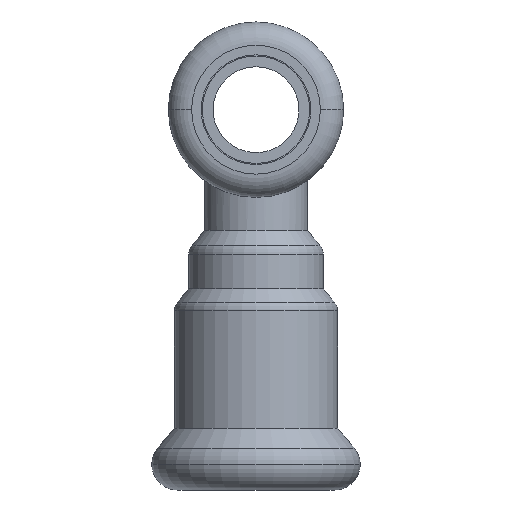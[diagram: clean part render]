
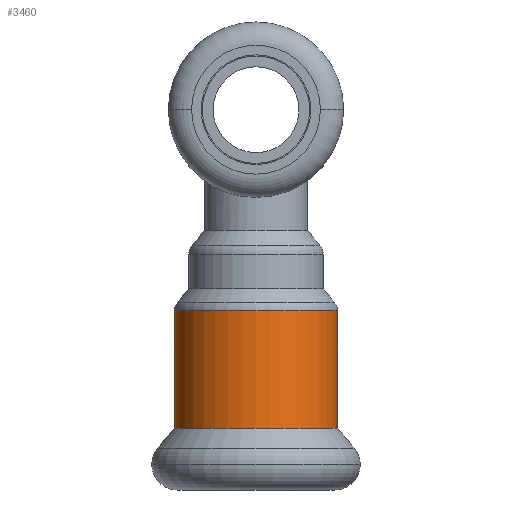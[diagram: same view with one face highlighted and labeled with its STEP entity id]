
A CAD part, front view. The second image highlights one B-rep face of the part: STEP entity #3460.
In plain terms, the highlighted cylindrical face has radius 9.125 mm (diameter 18.25 mm), a partial arc.
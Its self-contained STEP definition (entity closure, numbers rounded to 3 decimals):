
#2510=CARTESIAN_POINT('',(-105.318,41.391,0.));
#2520=VERTEX_POINT('',#2510);
#2690=CARTESIAN_POINT('',(-87.068,41.391,0.));
#2700=VERTEX_POINT('',#2690);
#2730=CARTESIAN_POINT('',(-96.193,41.391,0.));
#2740=DIRECTION('',(0.,-1.,0.));
#2750=DIRECTION('',(-1.,0.,0.));
#2760=AXIS2_PLACEMENT_3D('',#2730,#2740,#2750);
#2770=CIRCLE('',#2760,9.125);
#2780=EDGE_CURVE('',#2520,#2700,#2770,.T.);
#2920=CARTESIAN_POINT('',(-87.068,54.512,0.));
#2930=VERTEX_POINT('',#2920);
#3110=CARTESIAN_POINT('',(-105.318,54.512,
0.));
#3120=VERTEX_POINT('',#3110);
#3150=CARTESIAN_POINT('',(-96.193,54.512,0.));
#3160=DIRECTION('',(0.,1.,0.));
#3170=DIRECTION('',(-1.,0.,0.));
#3180=AXIS2_PLACEMENT_3D('',#3150,#3160,#3170);
#3190=CIRCLE('',#3180,9.125);
#3200=EDGE_CURVE('',#2930,#3120,#3190,.T.);
#3250=CARTESIAN_POINT('',(-96.193,47.688,0.));
#3260=DIRECTION('',(0.,-1.,0.));
#3270=DIRECTION('',(-1.,0.,0.));
#3280=AXIS2_PLACEMENT_3D('',#3250,#3260,#3270);
#3290=CYLINDRICAL_SURFACE('',#3280,9.125);
#3300=CARTESIAN_POINT('',(-87.068,47.688,
0.));
#3310=DIRECTION('',(0.,-1.,0.));
#3320=VECTOR('',#3310,1.);
#3330=LINE('',#3300,#3320);
#3340=EDGE_CURVE('',#2930,#2700,#3330,.T.);
#3350=ORIENTED_EDGE('',*,*,#3340,.T.);
#3360=ORIENTED_EDGE('',*,*,#3200,.F.);
#3370=CARTESIAN_POINT('',(-105.318,47.688,0.));
#3380=DIRECTION('',(0.,-1.,0.));
#3390=VECTOR('',#3380,1.);
#3400=LINE('',#3370,#3390);
#3410=EDGE_CURVE('',#3120,#2520,#3400,.T.);
#3420=ORIENTED_EDGE('',*,*,#3410,.F.);
#3430=ORIENTED_EDGE('',*,*,#2780,.F.);
#3440=EDGE_LOOP('',(#3430,#3420,#3360,#3350));
#3450=FACE_OUTER_BOUND('',#3440,.T.);
#3460=ADVANCED_FACE('',(#3450),#3290,.T.);
